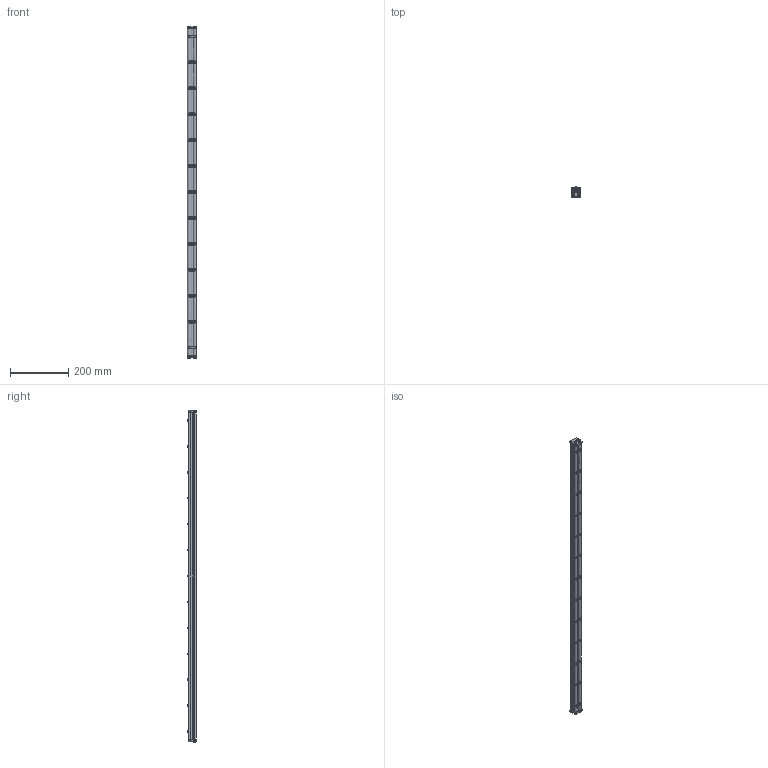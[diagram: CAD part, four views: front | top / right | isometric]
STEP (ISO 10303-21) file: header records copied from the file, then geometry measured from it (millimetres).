
FILE_DESCRIPTION((''),'2;1');
FILE_NAME('206523-44_ASM','2023-02-27T',('jenni.wallner'),(''),'PRO/ENGINEER BY PARAMETRIC TECHNOLOGY CORPORATION, 2012420','PRO/ENGINEER BY PARAMETRIC TECHNOLOGY CORPORATION, 2012420','');
FILE_SCHEMA(('CONFIG_CONTROL_DESIGN'));
Length unit declared in the file: inch
Products named in the file (7): 240826; 9506XXM_950616M; 2436WW_243644; 205977_205978_205979_205978; 2410WW_241044; ASM0001_ASM; 206523-44_ASM
Assembly tree (22 placements, depth 3):
  206523-44_ASM
    ASM0001_ASM
      240826  x13
      9506XXM_950616M  x4
      2436WW_243644
      205977_205978_205979_205978  x2
      2410WW_241044
Bounding box: 30.89 x 33.01 x 1138.15 mm (x, y, z)
Volume: 544589.5 mm3; surface area: 322616.7 mm2
Topology: 21 solids, 21 shells, 807 faces, 2290 edges, 1507 vertices
Faces by surface type: cylinder 367, plane 264, cone 124, torus 52
Entity records: 19122 total; most frequent: CARTESIAN_POINT 4724, ORIENTED_EDGE 3146, DIRECTION 3022, EDGE_CURVE 1573, AXIS2_PLACEMENT_3D 1145, VERTEX_POINT 1049, VECTOR 732, LINE 732
